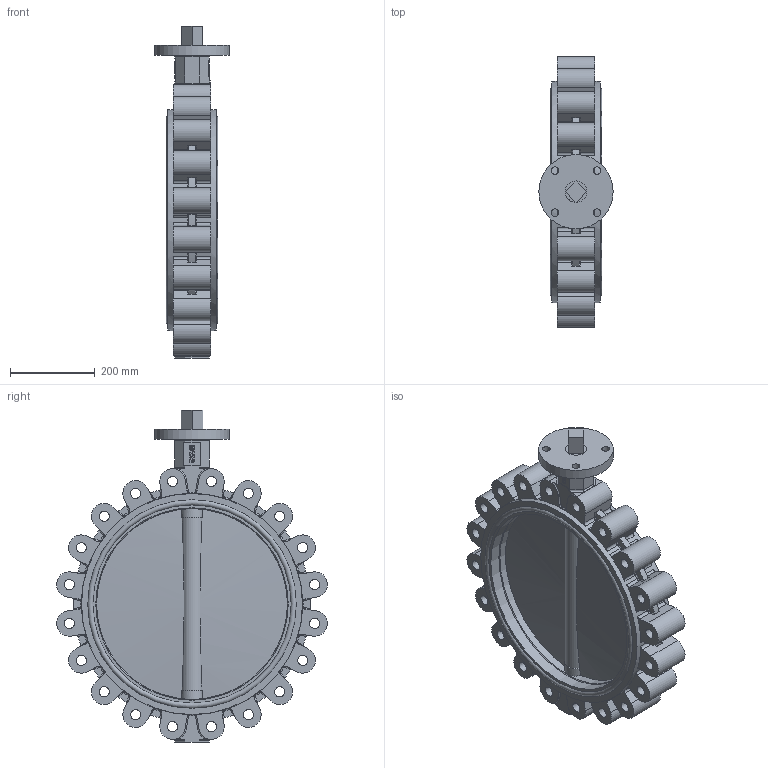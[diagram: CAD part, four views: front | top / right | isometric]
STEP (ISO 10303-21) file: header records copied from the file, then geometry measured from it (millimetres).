
FILE_DESCRIPTION(('STEP AP242'), '1');
FILE_NAME('Ïîâîðîòíûé çàòâîð ïîä ýëåêòðîïðèâîä', '', ('UNSPECIFIED'), ('UNSPECIFIED'), 'C3D Converter', 'C3D Toolkit', '');
FILE_SCHEMA(('AP242_MANAGED_MODEL_BASED_3D_ENGINEERING_MIM_LF { 1 0 10303 442 1 1 4 }'));
Length unit declared in the file: millimetre
Products named in the file (6): П
Assembly tree (6 placements, depth 2):
  (unnamed)
    (unnamed)
    П  x2
    (unnamed)
    (unnamed)
    (unnamed)
Bounding box: 175 x 637.79 x 782 mm (x, y, z)
Volume: 17639059.1 mm3; surface area: 1968245.5 mm2
Topology: 6 solids, 6 shells, 862 faces, 2254 edges, 1436 vertices
Faces by surface type: plane 311, cylinder 278, extrusion 135, torus 130, cone 4, sphere 4
Full cylindrical faces by diameter (mm): 12.564 x1, 18 x4, 23.752 x20, 36 x5, 39.6 x1, 50.912 x5, 54.15 x4, 175 x1, 450 x1, 453.375 x2, 466.875 x2, 478.938 x4, 491 x4, 520.633 x2
Entity records: 33927 total; most frequent: CARTESIAN_POINT 10801, ORIENTED_EDGE 4368, DIRECTION 4122, EDGE_CURVE 2184, AXIS2_PLACEMENT_3D 1477, VERTEX_POINT 1431, VECTOR 1168, LINE 1033
